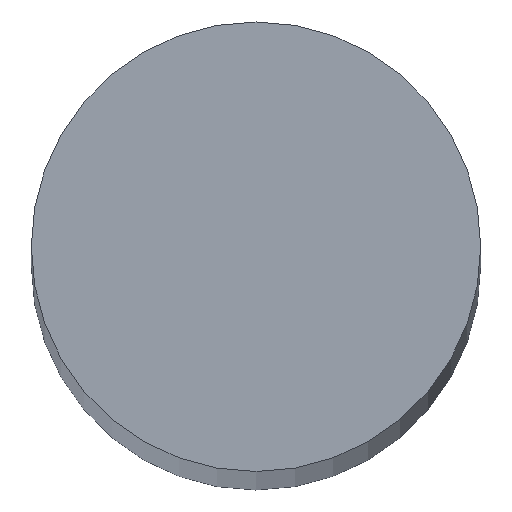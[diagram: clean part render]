
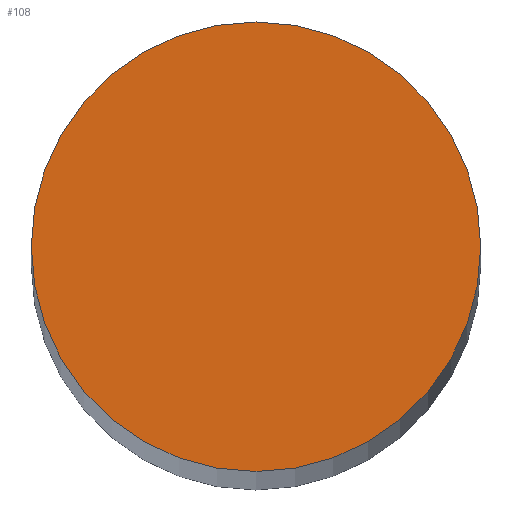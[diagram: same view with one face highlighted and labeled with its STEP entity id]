
A CAD part, top view. The second image highlights one B-rep face of the part: STEP entity #108.
In plain terms, the highlighted planar face has unit normal (0, 0, 1).
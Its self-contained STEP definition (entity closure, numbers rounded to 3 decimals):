
#6 = EDGE_LOOP ( 'NONE', ( #16, #17 ) ) ;
#8 = FACE_OUTER_BOUND ( 'NONE', #6, .T. ) ;
#16 = ORIENTED_EDGE ( 'NONE', *, *, #134, .T. ) ;
#17 = ORIENTED_EDGE ( 'NONE', *, *, #131, .T. ) ;
#34 = CIRCLE ( 'NONE', #132, 6. ) ;
#35 = CIRCLE ( 'NONE', #118, 6. ) ;
#45 = CARTESIAN_POINT ( 'NONE',  ( 0., 0., 141.5 ) ) ;
#47 = VERTEX_POINT ( 'NONE', #49 ) ;
#48 = VERTEX_POINT ( 'NONE', #54 ) ;
#49 = CARTESIAN_POINT ( 'NONE',  ( -6., 0., 141.5 ) ) ;
#50 = PLANE ( 'NONE',  #135 ) ;
#54 = CARTESIAN_POINT ( 'NONE',  ( 6., 0., 141.5 ) ) ;
#58 = DIRECTION ( 'NONE',  ( 0., 0., 1. ) ) ;
#59 = DIRECTION ( 'NONE',  ( 1., 0., 0. ) ) ;
#73 = CARTESIAN_POINT ( 'NONE',  ( 0., 0., 141.5 ) ) ;
#79 = DIRECTION ( 'NONE',  ( 0., 0., 1. ) ) ;
#80 = DIRECTION ( 'NONE',  ( 1., 0., 0. ) ) ;
#81 = CARTESIAN_POINT ( 'NONE',  ( 0., 0., 141.5 ) ) ;
#83 = DIRECTION ( 'NONE',  ( 0., 0., 1. ) ) ;
#84 = DIRECTION ( 'NONE',  ( 1., 0., 0. ) ) ;
#108 = ADVANCED_FACE ( 'NONE', ( #8 ), #50, .T. ) ;
#118 = AXIS2_PLACEMENT_3D ( 'NONE', #81, #83, #84 ) ;
#131 = EDGE_CURVE ( 'NONE', #48, #47, #34, .T. ) ;
#132 = AXIS2_PLACEMENT_3D ( 'NONE', #73, #79, #80 ) ;
#134 = EDGE_CURVE ( 'NONE', #47, #48, #35, .T. ) ;
#135 = AXIS2_PLACEMENT_3D ( 'NONE', #45, #58, #59 ) ;
